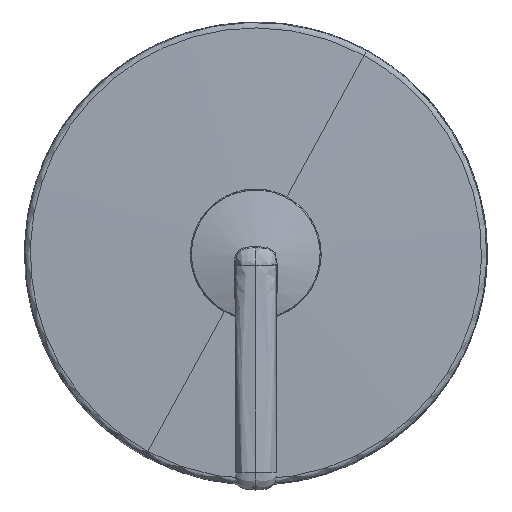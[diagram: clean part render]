
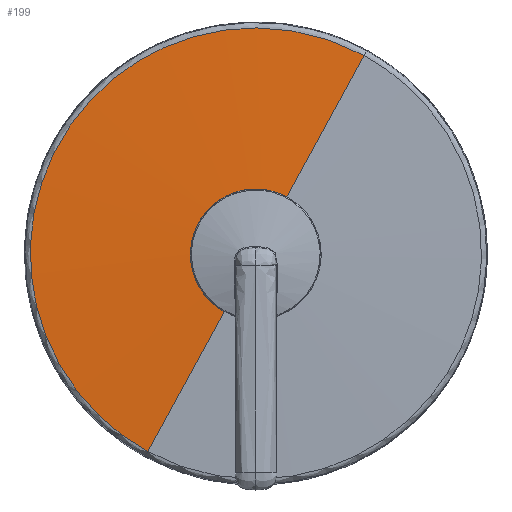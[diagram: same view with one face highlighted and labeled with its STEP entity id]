
A CAD part, front view. The second image highlights one B-rep face of the part: STEP entity #199.
In plain terms, the highlighted free-form (B-spline) face has degree [2, 2] with [5, 9] control points.
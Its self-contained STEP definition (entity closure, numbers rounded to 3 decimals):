
#43=(
BOUNDED_CURVE()
B_SPLINE_CURVE(2,(#4139,#4140,#4141,#4142,#4143),.UNSPECIFIED.,.F.,.F.)
B_SPLINE_CURVE_WITH_KNOTS((3,2,3),(24.95,49.074,73.199),
 .UNSPECIFIED.)
CURVE()
GEOMETRIC_REPRESENTATION_ITEM()
RATIONAL_B_SPLINE_CURVE((1.,0.869,1.,0.869,1.))
REPRESENTATION_ITEM('')
);
#45=(
BOUNDED_CURVE()
B_SPLINE_CURVE(2,(#4151,#4152,#4153),.UNSPECIFIED.,.F.,.F.)
B_SPLINE_CURVE_WITH_KNOTS((3,3),(146.398,171.348),
 .UNSPECIFIED.)
CURVE()
GEOMETRIC_REPRESENTATION_ITEM()
RATIONAL_B_SPLINE_CURVE((1.,0.86,1.))
REPRESENTATION_ITEM('')
);
#67=(
BOUNDED_CURVE()
B_SPLINE_CURVE(2,(#4319,#4320,#4321),.UNSPECIFIED.,.F.,.F.)
B_SPLINE_CURVE_WITH_KNOTS((3,3),(-59.559,0.),.UNSPECIFIED.)
CURVE()
GEOMETRIC_REPRESENTATION_ITEM()
RATIONAL_B_SPLINE_CURVE((1.,1.,1.))
REPRESENTATION_ITEM('')
);
#68=(
BOUNDED_CURVE()
B_SPLINE_CURVE(2,(#4322,#4323,#4324),.UNSPECIFIED.,.F.,.F.)
B_SPLINE_CURVE_WITH_KNOTS((3,3),(0.,59.559),.UNSPECIFIED.)
CURVE()
GEOMETRIC_REPRESENTATION_ITEM()
RATIONAL_B_SPLINE_CURVE((1.,1.,1.))
REPRESENTATION_ITEM('')
);
#72=(
BOUNDED_CURVE()
B_SPLINE_CURVE(2,(#4365,#4366,#4367,#4368,#4369,#4370,#4371),
 .UNSPECIFIED.,.F.,.F.)
B_SPLINE_CURVE_WITH_KNOTS((3,2,2,3),(0.,85.766,171.531,
260.229),.UNSPECIFIED.)
CURVE()
GEOMETRIC_REPRESENTATION_ITEM()
RATIONAL_B_SPLINE_CURVE((1.,0.869,1.,0.869,1.,0.86,
1.))
REPRESENTATION_ITEM('')
);
#125=(
BOUNDED_SURFACE()
B_SPLINE_SURFACE(2,2,((#4062,#4063,#4064,#4065,#4066,#4067,#4068,#4069,
#4070),(#4071,#4072,#4073,#4074,#4075,#4076,#4077,#4078,#4079),(#4080,#4081,
#4082,#4083,#4084,#4085,#4086,#4087,#4088),(#4089,#4090,#4091,#4092,#4093,
#4094,#4095,#4096,#4097),(#4098,#4099,#4100,#4101,#4102,#4103,#4104,#4105,
#4106)),.UNSPECIFIED.,.F.,.F.,.F.)
B_SPLINE_SURFACE_WITH_KNOTS((3,2,3),(3,2,2,2,3),(0.,2971.947,5943.893),
(0.,2971.947,5943.893,8915.84,11887.787),
 .UNSPECIFIED.)
GEOMETRIC_REPRESENTATION_ITEM()
RATIONAL_B_SPLINE_SURFACE(((1.,0.707,1.,0.707,1.,
0.707,1.,0.707,1.),(0.707,0.5,0.707,
0.5,0.707,0.5,0.707,0.5,0.707),(1.,
0.707,1.,0.707,1.,0.707,1.,0.707,
1.),(0.707,0.5,0.707,0.5,0.707,0.5,
0.707,0.5,0.707),(1.,0.707,1.,0.707,
1.,0.707,1.,0.707,1.)))
REPRESENTATION_ITEM('')
SURFACE()
);
#199=ADVANCED_FACE('',(#266),#125,.T.);
#266=FACE_OUTER_BOUND('',#333,.T.);
#333=EDGE_LOOP('',(#583,#584,#585,#586,#587));
#583=ORIENTED_EDGE('',*,*,#726,.F.);
#584=ORIENTED_EDGE('',*,*,#728,.F.);
#585=ORIENTED_EDGE('',*,*,#771,.F.);
#586=ORIENTED_EDGE('',*,*,#776,.F.);
#587=ORIENTED_EDGE('',*,*,#770,.F.);
#726=EDGE_CURVE('',#938,#969,#43,.T.);
#728=EDGE_CURVE('',#968,#938,#45,.T.);
#770=EDGE_CURVE('',#969,#939,#67,.T.);
#771=EDGE_CURVE('',#940,#968,#68,.T.);
#776=EDGE_CURVE('',#939,#940,#72,.T.);
#938=VERTEX_POINT('',#4107);
#939=VERTEX_POINT('',#4108);
#940=VERTEX_POINT('',#4109);
#968=VERTEX_POINT('',#4137);
#969=VERTEX_POINT('',#4138);
#4062=CARTESIAN_POINT('',(-1.755,3796.763,0.));
#4063=CARTESIAN_POINT('',(-1.755,3796.763,0.));
#4064=CARTESIAN_POINT('',(-1.755,3796.763,0.));
#4065=CARTESIAN_POINT('',(-1.755,3796.763,0.));
#4066=CARTESIAN_POINT('',(-1.755,3796.763,0.));
#4067=CARTESIAN_POINT('',(-1.755,3796.763,0.));
#4068=CARTESIAN_POINT('',(-1.755,3796.763,0.));
#4069=CARTESIAN_POINT('',(-1.755,3796.763,0.));
#4070=CARTESIAN_POINT('',(-1.755,3796.763,0.));
#4071=CARTESIAN_POINT('',(1890.245,3796.763,0.));
#4072=CARTESIAN_POINT('',(1890.245,3796.763,1892.));
#4073=CARTESIAN_POINT('',(-1.755,3796.763,1892.));
#4074=CARTESIAN_POINT('',(-1893.755,3796.763,1892.));
#4075=CARTESIAN_POINT('',(-1893.755,3796.763,0.));
#4076=CARTESIAN_POINT('',(-1893.755,3796.763,-1892.));
#4077=CARTESIAN_POINT('',(-1.755,3796.763,-1892.));
#4078=CARTESIAN_POINT('',(1890.245,3796.763,-1892.));
#4079=CARTESIAN_POINT('',(1890.245,3796.763,0.));
#4080=CARTESIAN_POINT('',(1890.245,1904.763,0.));
#4081=CARTESIAN_POINT('',(1890.245,1904.763,1892.));
#4082=CARTESIAN_POINT('',(-1.755,1904.763,1892.));
#4083=CARTESIAN_POINT('',(-1893.755,1904.763,1892.));
#4084=CARTESIAN_POINT('',(-1893.755,1904.763,0.));
#4085=CARTESIAN_POINT('',(-1893.755,1904.763,-1892.));
#4086=CARTESIAN_POINT('',(-1.755,1904.763,-1892.));
#4087=CARTESIAN_POINT('',(1890.245,1904.763,-1892.));
#4088=CARTESIAN_POINT('',(1890.245,1904.763,0.));
#4089=CARTESIAN_POINT('',(1890.245,12.763,0.));
#4090=CARTESIAN_POINT('',(1890.245,12.763,1892.));
#4091=CARTESIAN_POINT('',(-1.755,12.763,1892.));
#4092=CARTESIAN_POINT('',(-1893.755,12.763,1892.));
#4093=CARTESIAN_POINT('',(-1893.755,12.763,0.));
#4094=CARTESIAN_POINT('',(-1893.755,12.763,-1892.));
#4095=CARTESIAN_POINT('',(-1.755,12.763,-1892.));
#4096=CARTESIAN_POINT('',(1890.245,12.763,-1892.));
#4097=CARTESIAN_POINT('',(1890.245,12.763,0.));
#4098=CARTESIAN_POINT('',(-1.755,12.763,0.));
#4099=CARTESIAN_POINT('',(-1.755,12.763,0.));
#4100=CARTESIAN_POINT('',(-1.755,12.763,0.));
#4101=CARTESIAN_POINT('',(-1.755,12.763,0.));
#4102=CARTESIAN_POINT('',(-1.755,12.763,0.));
#4103=CARTESIAN_POINT('',(-1.755,12.763,0.));
#4104=CARTESIAN_POINT('',(-1.755,12.763,0.));
#4105=CARTESIAN_POINT('',(-1.755,12.763,0.));
#4106=CARTESIAN_POINT('',(-1.755,12.763,0.));
#4107=CARTESIAN_POINT('',(-25.055,12.907,0.));
#4108=CARTESIAN_POINT('',(37.958,14.577,72.693));
#4109=CARTESIAN_POINT('',(-41.467,14.577,-72.693));
#4137=CARTESIAN_POINT('',(-12.925,12.907,-20.448));
#4138=CARTESIAN_POINT('',(9.416,12.907,20.448));
#4139=CARTESIAN_POINT('',(-25.055,12.907,0.));
#4140=CARTESIAN_POINT('',(-25.055,12.907,13.27));
#4141=CARTESIAN_POINT('',(-13.642,12.907,20.04));
#4142=CARTESIAN_POINT('',(-2.229,12.907,26.809));
#4143=CARTESIAN_POINT('',(9.416,12.907,20.448));
#4151=CARTESIAN_POINT('',(-12.925,12.907,-20.448));
#4152=CARTESIAN_POINT('',(-25.055,12.907,-13.821));
#4153=CARTESIAN_POINT('',(-25.055,12.907,0.));
#4319=CARTESIAN_POINT('',(9.416,12.907,20.448));
#4320=CARTESIAN_POINT('',(23.693,13.273,46.582));
#4321=CARTESIAN_POINT('',(37.958,14.577,72.693));
#4322=CARTESIAN_POINT('',(-41.467,14.577,-72.693));
#4323=CARTESIAN_POINT('',(-27.203,13.273,-46.582));
#4324=CARTESIAN_POINT('',(-12.925,12.907,-20.448));
#4365=CARTESIAN_POINT('',(37.958,14.577,72.693));
#4366=CARTESIAN_POINT('',(-3.442,14.577,95.31));
#4367=CARTESIAN_POINT('',(-44.015,14.577,71.242));
#4368=CARTESIAN_POINT('',(-84.588,14.577,47.175));
#4369=CARTESIAN_POINT('',(-84.588,14.577,0.));
#4370=CARTESIAN_POINT('',(-84.588,14.577,-49.136));
#4371=CARTESIAN_POINT('',(-41.467,14.577,-72.693));
